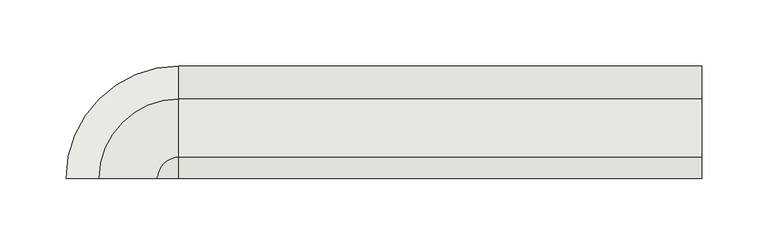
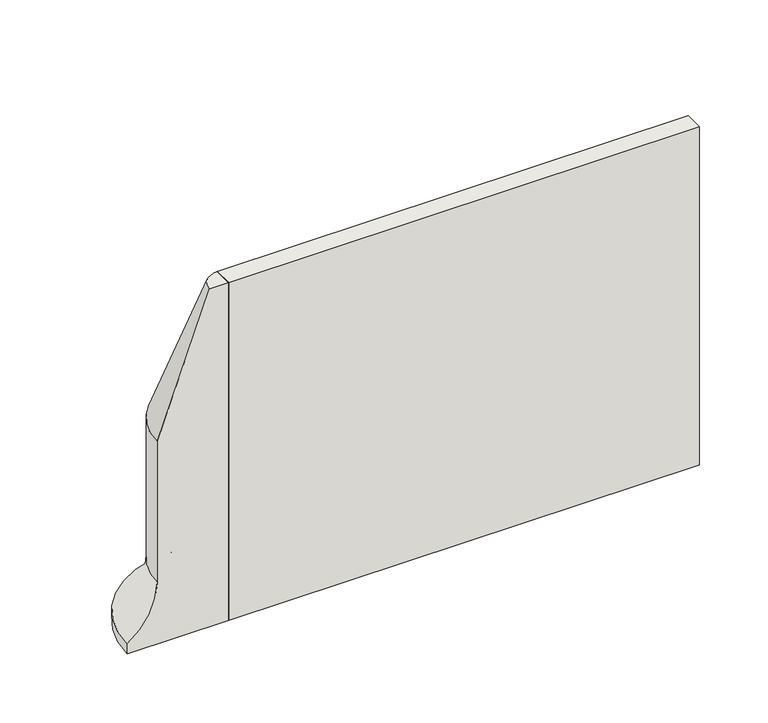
"""IFC4 building model written with IfcOpenShell, lengths in millimetres: wall geometry, GM_PC_UN_ACO kerb PB outside corner_ACO : PB H300 plain."""

from ifc_helpers import new_model, si_unit, frame, origin, place, context, project, spatial, polyline, circle_curve, source, transform, mapped, element, save
from ifc_brep_helpers import plane_surface, cylinder_surface, revolved_surface, extruded_surface, spline_curve, advanced_brep


def wall_3451ad8e(model_context):
    return source(origin(), model_context, "Body", "AdvancedBrep", [
        advanced_brep(
        [(0.0, 85.0, 8.9329844), (0.0, 85.0, -0.0124899), (0.0, 0.0, -0.0124899), (0.0, 0.0, 300.0008401), (0.0, 16.0766274, 300.0008401), (0.0, 60.02016, 180.0038512), (0.0, 60.02016, 54.9904169), (395.0, 85.0, 8.9329844), (395.0, 60.02016, 54.9904169), (395.0, 60.02016, 180.0038512), (395.0, 16.0766274, 300.0008401), (395.0, 0.0, 300.0008401), (395.0, 0.0, -0.0124899), (395.0, 85.0, -0.0124899)],
        [
            (0, 1),
            (1, 2),
            (2, 3),
            (3, 4),
            (4, 5),
            (5, 6),
            (6, 0, spline_curve(3, [(0.0, 60.02016, 54.9904169), (0.0, 60.0210198, 36.401179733), (0.0, 69.4194957, 19.0724445), (0.0, 85.0, 8.9329844)], [4, 4], [0.0, 1.0])),
            (7, 8, spline_curve(3, [(395.0, 85.0, 8.9329844), (395.0, 69.4194957, 19.0724445), (395.0, 60.0210198, 36.401179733), (395.0, 60.02016, 54.9904169)], [4, 4], [0.0, 1.0])),
            (8, 9),
            (9, 10),
            (10, 11),
            (11, 12),
            (12, 13),
            (13, 7),
            (6, 8),
            (7, 0),
            (5, 9),
            (4, 10),
            (3, 11),
            (2, 12),
            (1, 13),
        ],
        [
            plane_surface(frame((0.0, 0.0, 0.0), z_axis=(-1.0, 0.0, 0.0), x_axis=(0.0, 0.0, 1.0))),
            plane_surface(frame((395.0, 0.0, 0.0), z_axis=(1.0, 0.0, 0.0), x_axis=(0.0, 0.0, 1.0))),
            extruded_surface(spline_curve(3, [(395.0, 60.02016, 54.9904169), (395.0, 60.0210198, 36.401179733), (395.0, 69.4194957, 19.0724445), (395.0, 85.0, 8.9329844)], [4, 4], [0.0, 1.0]), (-395.0, 0.0, 0.0), 395.0),
            plane_surface(frame((0.0, 60.02016, 180.0038512), z_axis=(0.0, 1.0, 0.0), x_axis=(1.0, 0.0, 0.0))),
            plane_surface(frame((0.0, 16.0766274, 300.0008401), z_axis=(0.0, 0.9390162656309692, 0.34387272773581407), x_axis=(1.0, 0.0, 0.0))),
            plane_surface(frame((0.0, 0.0, 300.0008401), z_axis=(0.0, 0.0, 1.0), x_axis=(1.0, 0.0, 0.0))),
            plane_surface(frame((0.0, 0.0, -0.0124899), z_axis=(0.0, -1.0, 0.0), x_axis=(1.0, 0.0, 0.0))),
            plane_surface(frame((0.0, 85.0, -0.0124899), z_axis=(0.0, 0.0, -1.0), x_axis=(1.0, 0.0, 0.0))),
            plane_surface(frame((0.0, 85.0, 8.9329844), z_axis=(0.0, 1.0, 0.0), x_axis=(1.0, 0.0, 0.0))),
        ],
        [
            (0, [[1, 2, 3, 4, 5, 6, 7]]),
            (1, [[8, 9, 10, 11, 12, 13, 14]]),
            (2, [[-7, 15, -8, 16]]),
            (3, [[-6, 17, -9, -15]]),
            (4, [[-5, 18, -10, -17]]),
            (5, [[-4, 19, -11, -18]]),
            (6, [[-3, 20, -12, -19]]),
            (7, [[-2, 21, -13, -20]]),
            (8, [[-1, -16, -14, -21]]),
        ],
    ),
        advanced_brep(
        [(0.0, 85.0, 8.9329844), (0.0, 60.02016, 54.9904169), (0.0, 60.02016, 180.0038512), (0.0, 16.0766274, 300.0), (0.0, 0.0, 300.0), (0.0, 0.0, 0.0), (0.0, 85.0, 0.0), (-85.0, 0.0, 8.9329844), (-85.0, 0.0, 0.0), (-16.0766274, 0.0, 300.0), (-60.02016, 0.0, 180.0038512), (-60.02016, 0.0, 54.9904169)],
        [
            (0, 1, spline_curve(3, [(0.0, 85.0, 8.9329844), (0.0, 69.4194957, 19.0724445), (0.0, 60.0210198, 36.401179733), (0.0, 60.02016, 54.9904169)], [4, 4], [0.0, 1.0])),
            (1, 2),
            (2, 3),
            (3, 4),
            (4, 5),
            (5, 6),
            (6, 0),
            (7, 8),
            (8, 5),
            (4, 9),
            (9, 10),
            (10, 11),
            (11, 7, spline_curve(3, [(-60.02016, 0.0, 54.9904169), (-60.0210198, 0.0, 36.401179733), (-69.4194957, 0.0, 19.0724445), (-85.0, 0.0, 8.9329844)], [4, 4], [0.0, 1.0])),
            (11, 1, circle_curve(frame((0.0, 0.0, 54.9904169), z_axis=(0.0, 0.0, -1.0), x_axis=(0.0, 1.0, 0.0)), 60.02016)),
            (0, 7, circle_curve(frame((0.0, 0.0, 8.9329844), z_axis=(0.0, 0.0, 1.0), x_axis=(0.0, 1.0, 0.0)), 85.0)),
            (10, 2, circle_curve(frame((0.0, 0.0, 180.0038512), z_axis=(0.0, 0.0, -1.0), x_axis=(0.0, 1.0, 0.0)), 60.02016)),
            (9, 3, circle_curve(frame((0.0, 0.0, 300.0), z_axis=(0.0, 0.0, -1.0), x_axis=(0.0, 1.0, 0.0)), 16.0766274)),
            (8, 6, circle_curve(frame((0.0, 0.0, 0.0), z_axis=(0.0, 0.0, -1.0), x_axis=(0.0, 1.0, 0.0)), 85.0)),
        ],
        [
            plane_surface(frame((0.0, 0.0, 779.9991599), z_axis=(1.0, 0.0, 0.0), x_axis=(0.0, 1.0, 0.0))),
            plane_surface(frame((0.0, 0.0, 779.9991599), z_axis=(0.0, -1.0, 0.0), x_axis=(-1.0, 0.0, 0.0))),
            revolved_surface(spline_curve(3, [(0.0, 85.0, 8.9329844), (0.0, 69.4194957, 19.0724445), (0.0, 60.0210198, 36.401179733), (0.0, 60.02016, 54.9904169)], [4, 4], [0.0, 1.0]), (0.0, 0.0, 779.9991599), (0.0, 0.0, 1.0)),
            cylinder_surface(frame((0.0, 0.0, 779.9991599), z_axis=(0.0, 0.0, 1.0), x_axis=(0.0, 1.0, 0.0)), 60.02016),
            revolved_surface(polyline([(0.0, 60.02016, 180.0038512), (0.0, 16.0766274, 300.0)]), (0.0, 0.0, 779.9991599), (0.0, 0.0, 1.0)),
            plane_surface(frame((0.0, 0.0, 300.0), z_axis=(0.0, 0.0, 1.0), x_axis=(0.0, 1.0, 0.0))),
            plane_surface(frame((0.0, 0.0, 0.0), z_axis=(0.0, 0.0, -1.0), x_axis=(0.0, 1.0, 0.0))),
            cylinder_surface(frame((0.0, 0.0, 779.9991599), z_axis=(0.0, 0.0, 1.0), x_axis=(0.0, 1.0, 0.0)), 85.0),
        ],
        [
            (0, [[1, 2, 3, 4, 5, 6, 7]]),
            (1, [[8, 9, -5, 10, 11, 12, 13]]),
            (2, [[14, -1, 15, -13]]),
            (3, [[16, -2, -14, -12]]),
            (4, [[17, -3, -16, -11]]),
            (5, [[-4, -17, -10]]),
            (6, [[18, -6, -9]]),
            (7, [[-15, -7, -18, -8]]),
        ],
    ),
    ])


if __name__ == "__main__":
    model = new_model("IFC4")
    model_context = context("Model", 3, world=origin())
    ifc_project = project(units=[si_unit("LENGTHUNIT", "METRE", prefix="MILLI")], contexts=[model_context])
    site = spatial("IfcSite", under=ifc_project)
    building = spatial("IfcBuilding", under=site)
    placement = place(None, origin())
    wall_shape = wall_3451ad8e(model_context)
    element("IfcWall", 1, ObjectType="GM_PC_UN_ACO kerb PB outside corner_ACO : PB H300 plain", at=placement, inside=building, context=model_context, shape_type="MappedRepresentation", body=[
        mapped(wall_shape, transform((0.0, 0.0, 0.0), x_axis=(1.0, 0.0, 0.0), y_axis=(0.0, 1.0, 0.0), z_axis=(0.0, 0.0, 1.0))),
    ])
    save(model, "model.ifc")
